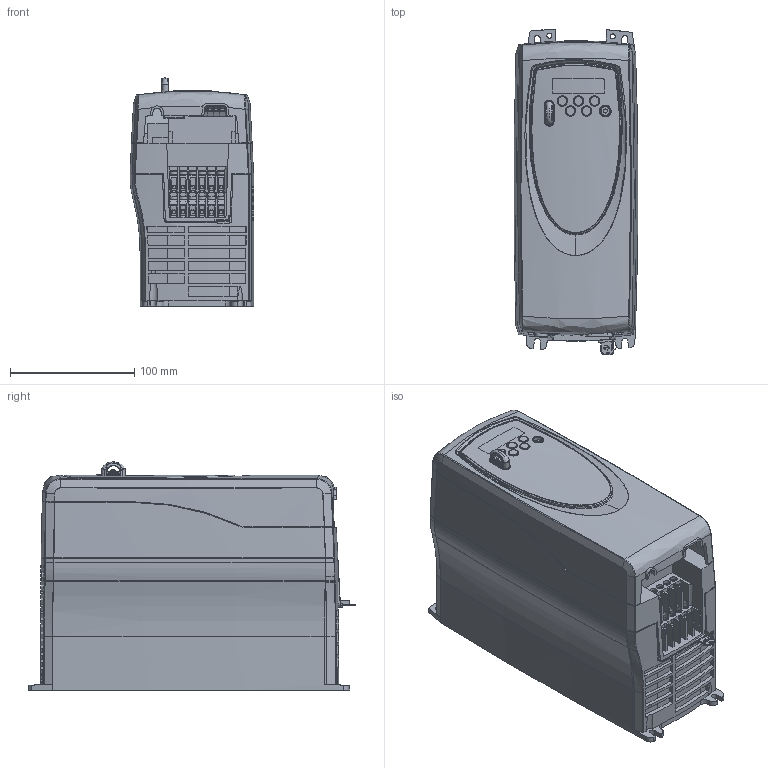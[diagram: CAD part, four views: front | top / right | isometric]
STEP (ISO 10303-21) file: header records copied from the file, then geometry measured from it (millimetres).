
FILE_DESCRIPTION((''),'2;1');
FILE_NAME('PK-SEQ-SK-C-ALL-LOGISTICK','2006-12-19T',('summne01'),(''),'PRO/ENGINEER BY PARAMETRIC TECHNOLOGY CORPORATION, 2006320','PRO/ENGINEER BY PARAMETRIC TECHNOLOGY CORPORATION, 2006320','');
FILE_SCHEMA(('CONFIG_CONTROL_DESIGN'));
Length unit declared in the file: millimetre
Products named in the file (1): PK-SEQ-SK-C-ALL-LOGISTICK
Bounding box: 99.9 x 262.71 x 183.98 mm (x, y, z)
Surface area: 401399.6 mm2 (no closed solid volume)
Topology: 0 solids, 230 shells, 2417 faces, 9451 edges, 7014 vertices
Faces by surface type: plane 1612, cylinder 567, bspline 135, cone 72, torus 28, extrusion 3
Entity records: 111761 total; most frequent: CARTESIAN_POINT 37520, ORIENTED_EDGE 14502, DIRECTION 13424, EDGE_CURVE 9451, VERTEX_POINT 7014, VECTOR 6372, LINE 6369, AXIS2_PLACEMENT_3D 3526
